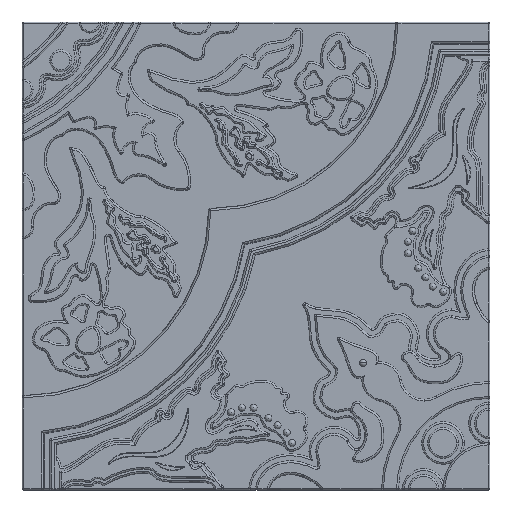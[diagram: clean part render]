
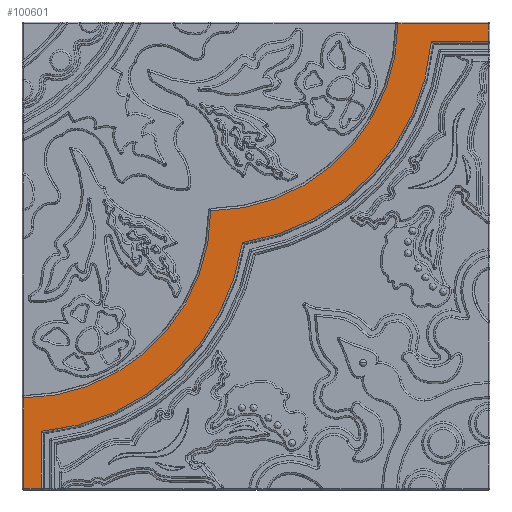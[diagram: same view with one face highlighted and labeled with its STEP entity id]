
A CAD part, top view. The second image highlights one B-rep face of the part: STEP entity #100601.
In plain terms, the highlighted planar face has unit normal (0, 0, 1).
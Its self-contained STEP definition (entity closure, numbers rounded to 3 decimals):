
#592 = DIRECTION ( 'NONE',  ( 0., 0., 1. ) ) ;
#4239 = AXIS2_PLACEMENT_3D ( 'NONE', #157587, #15934, #79011 ) ;
#6738 = CARTESIAN_POINT ( 'NONE',  ( 198.529, 200., 20. ) ) ;
#6930 = CARTESIAN_POINT ( 'NONE',  ( -198.529, -198.529, 20. ) ) ;
#8267 = VERTEX_POINT ( 'NONE', #194598 ) ;
#9465 = EDGE_CURVE ( 'NONE', #83014, #123180, #158508, .T. ) ;
#9681 = CARTESIAN_POINT ( 'NONE',  ( -183.374, -198.529, 20. ) ) ;
#10424 = VECTOR ( 'NONE', #26972, 1000. ) ;
#15934 = DIRECTION ( 'NONE',  ( 0., 0., 1. ) ) ;
#16861 = CARTESIAN_POINT ( 'NONE',  ( -200., 183.374, 20. ) ) ;
#17413 = CARTESIAN_POINT ( 'NONE',  ( -11.515, 11.515, 20. ) ) ;
#22433 = VERTEX_POINT ( 'NONE', #191143 ) ;
#25709 = CARTESIAN_POINT ( 'NONE',  ( 121.368, 198.529, 20. ) ) ;
#26972 = DIRECTION ( 'NONE',  ( -1., 0., 0. ) ) ;
#31448 = FACE_OUTER_BOUND ( 'NONE', #130284, .T. ) ;
#38425 = EDGE_CURVE ( 'NONE', #83014, #22433, #148390, .T. ) ;
#39633 = CIRCLE ( 'NONE', #66074, 190.626 ) ;
#40079 = CIRCLE ( 'NONE', #155655, 161.374 ) ;
#41568 = DIRECTION ( 'NONE',  ( 0., -1., 0. ) ) ;
#43307 = CARTESIAN_POINT ( 'NONE',  ( -183.374, 200., 20. ) ) ;
#43808 = ORIENTED_EDGE ( 'NONE', *, *, #38425, .T. ) ;
#53991 = DIRECTION ( 'NONE',  ( 0., -1., 0. ) ) ;
#56191 = CARTESIAN_POINT ( 'NONE',  ( -200., 40., 20. ) ) ;
#58633 = CARTESIAN_POINT ( 'NONE',  ( -183.374, -198.529, 20. ) ) ;
#63650 = DIRECTION ( 'NONE',  ( 1., 0., 0. ) ) ;
#63953 = ORIENTED_EDGE ( 'NONE', *, *, #161925, .F. ) ;
#65392 = VERTEX_POINT ( 'NONE', #58633 ) ;
#66074 = AXIS2_PLACEMENT_3D ( 'NONE', #142246, #592, #63650 ) ;
#69804 = DIRECTION ( 'NONE',  ( 0., 1., 0. ) ) ;
#71252 = LINE ( 'NONE', #134335, #103688 ) ;
#72284 = VERTEX_POINT ( 'NONE', #25709 ) ;
#72750 = DIRECTION ( 'NONE',  ( 1., 0., 0. ) ) ;
#77000 = CARTESIAN_POINT ( 'NONE',  ( -198.529, -121.368, 20. ) ) ;
#79011 = DIRECTION ( 'NONE',  ( 1., 0., 0. ) ) ;
#79934 = DIRECTION ( 'NONE',  ( -1., 0., 0. ) ) ;
#80113 = EDGE_CURVE ( 'NONE', #181696, #142751, #39633, .T. ) ;
#82697 = VERTEX_POINT ( 'NONE', #77000 ) ;
#83014 = VERTEX_POINT ( 'NONE', #115927 ) ;
#90244 = EDGE_CURVE ( 'NONE', #8267, #82697, #40079, .T. ) ;
#91202 = EDGE_CURVE ( 'NONE', #22433, #72284, #105552, .T. ) ;
#94523 = PLANE ( 'NONE',  #4239 ) ;
#96141 = EDGE_CURVE ( 'NONE', #65392, #181696, #185002, .T. ) ;
#100601 = ADVANCED_FACE ( 'NONE', ( #31448 ), #94523, .T. ) ;
#103277 = AXIS2_PLACEMENT_3D ( 'NONE', #132591, #195686, #53991 ) ;
#103688 = VECTOR ( 'NONE', #197426, 1000. ) ;
#105552 = LINE ( 'NONE', #168647, #10424 ) ;
#106384 = DIRECTION ( 'NONE',  ( 0., 1., 0. ) ) ;
#106633 = AXIS2_PLACEMENT_3D ( 'NONE', #120164, #183256, #41568 ) ;
#107200 = ORIENTED_EDGE ( 'NONE', *, *, #9465, .F. ) ;
#107534 = VECTOR ( 'NONE', #72750, 1000. ) ;
#109727 = ORIENTED_EDGE ( 'NONE', *, *, #91202, .T. ) ;
#110412 = CARTESIAN_POINT ( 'NONE',  ( 149.899, 183.374, 20. ) ) ;
#110703 = EDGE_CURVE ( 'NONE', #82697, #165666, #71252, .T. ) ;
#114009 = EDGE_CURVE ( 'NONE', #123180, #142751, #195813, .T. ) ;
#115721 = VECTOR ( 'NONE', #79934, 1000. ) ;
#115927 = CARTESIAN_POINT ( 'NONE',  ( 198.529, 183.374, 20. ) ) ;
#119272 = DIRECTION ( 'NONE',  ( 0., 0., -1. ) ) ;
#120164 = CARTESIAN_POINT ( 'NONE',  ( -40., 200., 20. ) ) ;
#123180 = VERTEX_POINT ( 'NONE', #110412 ) ;
#130284 = EDGE_LOOP ( 'NONE', ( #107200, #43808, #109727, #63953, #176063, #168708, #177846, #159325, #196649, #191686 ) ) ;
#132591 = CARTESIAN_POINT ( 'NONE',  ( -40., 200., 20. ) ) ;
#134335 = CARTESIAN_POINT ( 'NONE',  ( -198.529, -200., 20. ) ) ;
#135320 = CARTESIAN_POINT ( 'NONE',  ( -183.374, -149.899, 20. ) ) ;
#142246 = CARTESIAN_POINT ( 'NONE',  ( -200., 40., 20. ) ) ;
#142751 = VERTEX_POINT ( 'NONE', #17413 ) ;
#148390 = LINE ( 'NONE', #6738, #170468 ) ;
#151338 = LINE ( 'NONE', #9681, #107534 ) ;
#155655 = AXIS2_PLACEMENT_3D ( 'NONE', #56191, #119272, #182375 ) ;
#157587 = CARTESIAN_POINT ( 'NONE',  ( -200., 200., 20. ) ) ;
#158508 = LINE ( 'NONE', #16861, #115721 ) ;
#159325 = ORIENTED_EDGE ( 'NONE', *, *, #96141, .T. ) ;
#161925 = EDGE_CURVE ( 'NONE', #8267, #72284, #192500, .T. ) ;
#165666 = VERTEX_POINT ( 'NONE', #6930 ) ;
#168647 = CARTESIAN_POINT ( 'NONE',  ( 121.374, 198.529, 20. ) ) ;
#168708 = ORIENTED_EDGE ( 'NONE', *, *, #110703, .T. ) ;
#170468 = VECTOR ( 'NONE', #69804, 1000. ) ;
#176063 = ORIENTED_EDGE ( 'NONE', *, *, #90244, .T. ) ;
#177846 = ORIENTED_EDGE ( 'NONE', *, *, #185423, .T. ) ;
#181696 = VERTEX_POINT ( 'NONE', #135320 ) ;
#182375 = DIRECTION ( 'NONE',  ( 1., 0., 0. ) ) ;
#183256 = DIRECTION ( 'NONE',  ( 0., 0., -1. ) ) ;
#185002 = LINE ( 'NONE', #43307, #185640 ) ;
#185423 = EDGE_CURVE ( 'NONE', #165666, #65392, #151338, .T. ) ;
#185640 = VECTOR ( 'NONE', #106384, 1000. ) ;
#191143 = CARTESIAN_POINT ( 'NONE',  ( 198.529, 198.529, 20. ) ) ;
#191686 = ORIENTED_EDGE ( 'NONE', *, *, #114009, .F. ) ;
#192500 = CIRCLE ( 'NONE', #103277, 161.374 ) ;
#194598 = CARTESIAN_POINT ( 'NONE',  ( -38.631, 38.631, 20. ) ) ;
#195686 = DIRECTION ( 'NONE',  ( 0., 0., 1. ) ) ;
#195813 = CIRCLE ( 'NONE', #106633, 190.626 ) ;
#196649 = ORIENTED_EDGE ( 'NONE', *, *, #80113, .T. ) ;
#197426 = DIRECTION ( 'NONE',  ( 0., -1., 0. ) ) ;
